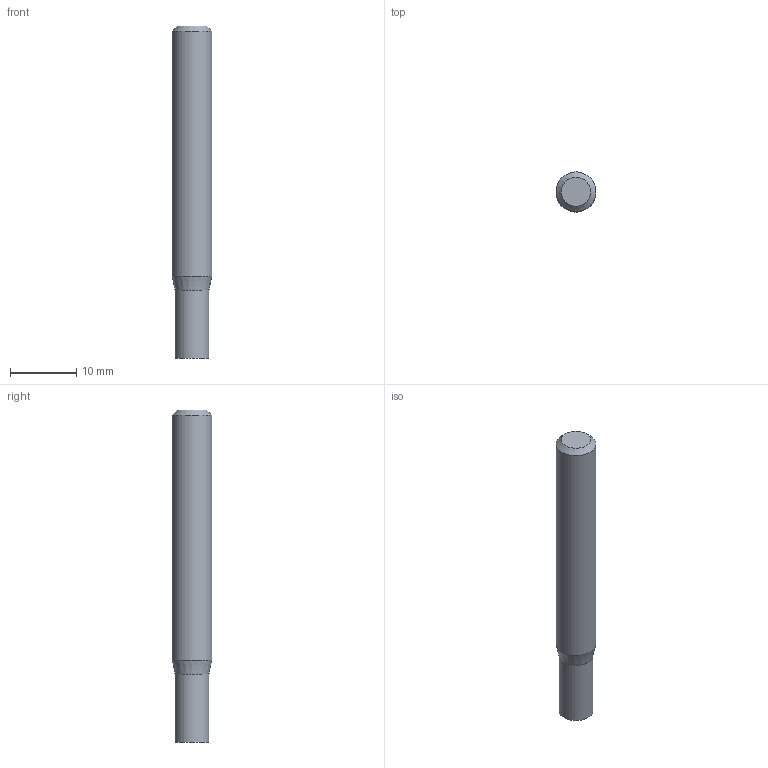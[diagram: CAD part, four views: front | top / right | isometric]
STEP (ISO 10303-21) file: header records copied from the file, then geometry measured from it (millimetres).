
FILE_DESCRIPTION((''),'2;1');
FILE_NAME('C:\Users\nsx150\AppData\Local\Temp\Mastercam 2021\E36A1X9CCL\TEMP.step','2023-04-21T15:13:07',(''),(''),'STEP Write','Mastercam 2021 ... CNC Software, Inc.','');
FILE_SCHEMA(('AUTOMOTIVE_DESIGN'));
Length unit declared in the file: millimetre
Products named in the file (1): None
Bounding box: 6 x 6 x 50 mm (x, y, z)
Volume: 1319.7 mm3; surface area: 991.4 mm2
Topology: 2 solids, 2 shells, 8 faces, 10 edges, 6 vertices
Faces by surface type: plane 4, cylinder 2, cone 2
Full cylindrical faces by diameter (mm): 5.1 x1, 6 x1
Entity records: 190 total; most frequent: DIRECTION 32, CARTESIAN_POINT 22, AXIS2_PLACEMENT_3D 16, ORIENTED_EDGE 12, EDGE_LOOP 12, STYLED_ITEM 11, ADVANCED_FACE 8, VERTEX_POINT 6
